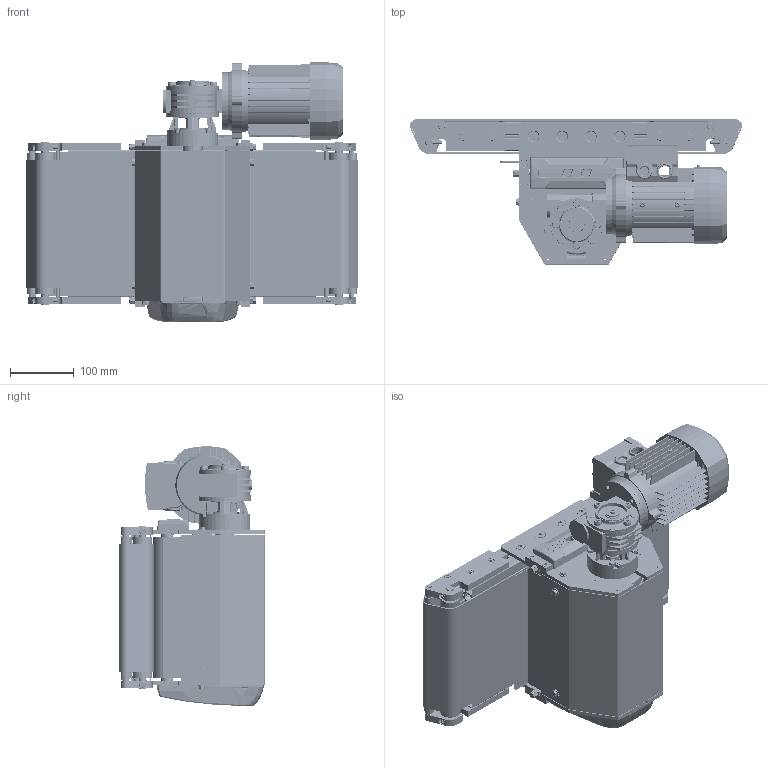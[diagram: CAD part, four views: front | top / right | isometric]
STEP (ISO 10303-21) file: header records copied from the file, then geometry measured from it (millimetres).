
FILE_DESCRIPTION (( 'STEP AP203' ), '1' );
FILE_NAME ('NASTRO_RETTILINEO_TAPPETO.step', '2026-04-23T12:42:50', ( 'Utente Windows' ), ( '' ), 'SwSTEP 2.0', 'SolidWorks 2024', '' );
FILE_SCHEMA (( 'CONFIG_CONTROL_DESIGN' ));
Length unit declared in the file: millimetre
Products named in the file (69): 084.809.007; VITI TE UNI 5739_M6x16 UNI 5739; BLOCCO_PERNO_95_RINVIO; PERNO_INF_50_PENNA; NASTRO_RETTILINEO_TAPPETO; LAMIERA_2_PENNE; RULLO_95_Default<A macchina>; 084.802.064; 30UNI7435; 08UNI7435; VITI TE UNI 5739 INOX_M5x12 UNI 5739 INOX; VITI TE UNI 5739_M6x12 UNI 5739; 084.807.016_084.807.002; BLOCCO_RINVIO_50_PENNA_SX; VITE_RONDELLA_M8X20; RONDELLE UNI 6592_6.4x12.5 UNI 6592; RONDELLE UNI 6592_8.4x17 UNI 6592; VITI TSEI UNI 5933_M6x12 UNI 5933; TELAIO_50_STANDARD_Default<A macchina>; CHIAVETTE_A 8x7x20 UNI 6604-69; VITI TCEI UNI 5931_M6x20 UNI 5931; VITE_DADO_M6X12; TAPPETO_CENTRALE_2PENNE; PERNO_TENSIONAMENTO_50-95_CENTRALE; CHIAVETTE_A 5x5x50 UNI 6604-69; 084.812.003; 084.301.000 VITI ALUSIC_084.301.009; 084.302.000 DADI ALUSIC 13x13-1_084.302.007; VITI TSEI UNI 5933_M8x20 UNI 5933; RONDELLE FASCIA LARGA UNI 6593_5.4x20 UNI 6593; 084.301.000 VITI ALUSIC_084.301.036; RULLO_TENSIONAMENTO_50-95_CENTRALE; VITI TSEI UNI 5933_M5x12 UNI 5933; BLOCCO_RINVIO_50_PENNA_DX; 084.802.070; 084.802.003; 084.807.015_084.807.002; TRAVERSA_50-95_CENTRALE_Default<A macchina>; 084.302.016; P210RLM-0816-77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
Assembly tree (143 placements, depth 3):
  NASTRO_RETTILINEO_TAPPETO
    TAPPETO_CENTRALE_2PENNE
    TELAIO_50_STANDARD_Default<A macchina>
    LAMIERA_2_PENNE
    RULLO_SUP_50_PENNA  x2
    BLOCCO_RINVIO_50_PENNA_DX  x2
      084.802.036
      084.807.015_084.807.002
      VITI TCEI UNI 5931_M6x30 UNI 5931
      084.827.040
      VITI TCEI UNI 5931_M6x20 UNI 5931
      084.301.000 VITI ALUSIC_084.301.036
      084.302.016
      084.301.000 VITI ALUSIC_084.301.003
      08UNI7435
      12UNI7435
    PERNO_SUP_50_PENNA
    BLOCCO_RINVIO_50_PENNA_SX  x2
      084.807.016_084.807.002
      084.809.007
      084.802.036
      VITI TCEI UNI 5931_M6x30 UNI 5931
      RONDELLE UNI 6592_5.3x10 UNI 6592
      VITI TCEI UNI 5931_M6x20 UNI 5931
      084.301.000 VITI ALUSIC_084.301.036
      084.302.016
      084.301.000 VITI ALUSIC_084.301.003
      VITI TE UNI 5739 INOX_M5x12 UNI 5739 INOX
      12UNI7435
      08UNI7435
    RULLO_INF_50_PENNA  x2
    PERNO_INF_50_PENNA  x2
    PERNO_SUP_95_PENNA
    RULLO_95_Default<A macchina>
    BLOCCO_TRAINO_50-95_CENTRALE_30
      084.802.009
      084.802.021
      084.802.004-1  x2
      084.802.003
      VITI TSEI UNI 5933_M8x20 UNI 5933  x4
      084.302.017
      VITI TE UNI 5739_M6x16 UNI 5739  x6
      RONDELLE UNI 6592_6.4x12.5 UNI 6592  x2
      DADI ESAGONALI NORMALI UNI 5588_M6 UNI 5588  x2
      VITI TE UNI 5739_M6x50 UNI 5739  x2
      VITI TSEI UNI 5933_M6x12 UNI 5933  x6
      VITI TSEI UNI 5933_M8x16 UNI 5933  x3
      084.802.070
    BLOCCO_TRAINO_50-95_CENTRALE
      084.802.004-1  x2
      084.802.020
      084.802.003
      VITI TSEI UNI 5933_M8x20 UNI 5933  x4
      VITI TSEI UNI 5933_M6x12 UNI 5933  x6
      RONDELLE UNI 6592_8.4x17 UNI 6592  x2
      VITI TE UNI 5739_M8x12 UNI 5739  x2
      VITI TE UNI 5739_M6x16 UNI 5739  x2
      084.302.017
      RONDELLE UNI 6592_6.4x12.5 UNI 6592  x2
      VITI TE UNI 5739_M6x50 UNI 5739  x2
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Bounding box: 519.97 x 227.5 x 406.39 mm (x, y, z)
Volume: 5382784.2 mm3; surface area: 3166408.6 mm2
Topology: 189 solids, 193 shells, 6754 faces, 17067 edges, 10863 vertices
Faces by surface type: plane 2731, cylinder 2458, cone 731, bspline 527, torus 252, sphere 55
Entity records: 179118 total; most frequent: CARTESIAN_POINT 67233, ORIENTED_EDGE 22754, DIRECTION 19781, EDGE_CURVE 11377, AXIS2_PLACEMENT_3D 7444, VERTEX_POINT 7277, VECTOR 4893, LINE 4893
